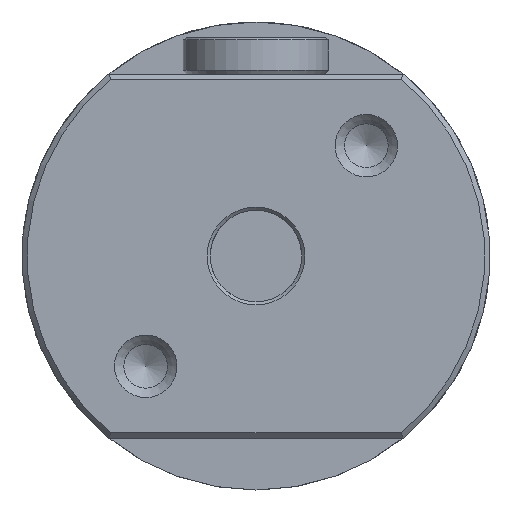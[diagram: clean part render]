
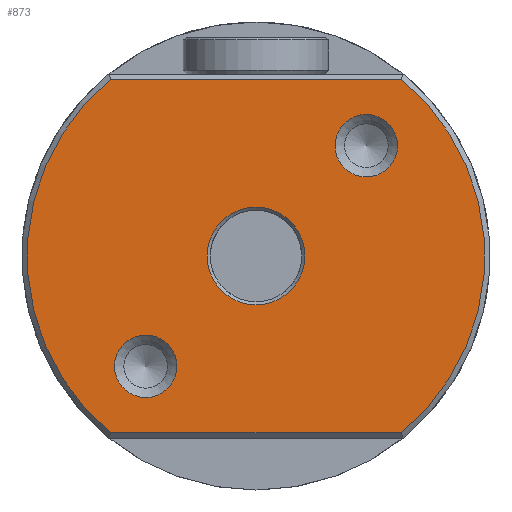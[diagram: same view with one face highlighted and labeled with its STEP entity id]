
A CAD part, front view. The second image highlights one B-rep face of the part: STEP entity #873.
In plain terms, the highlighted planar face has unit normal (0, -1, 0).
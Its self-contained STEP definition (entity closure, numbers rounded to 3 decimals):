
#873=ADVANCED_FACE('',(#1487,#1488,#1489,#1490),#1491,.F.);
#1487=FACE_OUTER_BOUND('',#2676,.T.);
#1488=FACE_BOUND('',#2677,.T.);
#1489=FACE_BOUND('',#2678,.T.);
#1490=FACE_BOUND('',#2679,.T.);
#1491=PLANE('',#2680);
#2676=EDGE_LOOP('',(#3752,#3753,#3754,#3755));
#2677=EDGE_LOOP('',(#3756));
#2678=EDGE_LOOP('',(#3757));
#2679=EDGE_LOOP('',(#3758));
#2680=AXIS2_PLACEMENT_3D('',#3759,#3760,#3761);
#3752=ORIENTED_EDGE('',*,*,#4386,.T.);
#3753=ORIENTED_EDGE('',*,*,#4387,.T.);
#3754=ORIENTED_EDGE('',*,*,#4388,.T.);
#3755=ORIENTED_EDGE('',*,*,#4389,.T.);
#3756=ORIENTED_EDGE('',*,*,#4380,.T.);
#3757=ORIENTED_EDGE('',*,*,#4390,.T.);
#3758=ORIENTED_EDGE('',*,*,#4391,.T.);
#3759=CARTESIAN_POINT('',(0.,-119.8,0.0));
#3760=DIRECTION('',(-0.0,1.0,0.0));
#3761=DIRECTION('',(1.0,0.0,0.0));
#4380=EDGE_CURVE('',#4979,#4979,#4980,.T.);
#4386=EDGE_CURVE('',#4987,#4988,#4989,.F.);
#4387=EDGE_CURVE('',#4988,#4990,#4991,.T.);
#4388=EDGE_CURVE('',#4990,#4992,#4993,.F.);
#4389=EDGE_CURVE('',#4992,#4987,#4994,.T.);
#4390=EDGE_CURVE('',#4995,#4995,#4996,.T.);
#4391=EDGE_CURVE('',#4997,#4997,#4998,.T.);
#4979=VERTEX_POINT('',#6319);
#4980=CIRCLE('',#6320,3.0);
#4987=VERTEX_POINT('',#6327);
#4988=VERTEX_POINT('',#6328);
#4989=CIRCLE('',#6329,22.0);
#4990=VERTEX_POINT('',#6330);
#4991=LINE('',#6331,#6332);
#4992=VERTEX_POINT('',#6333);
#4993=CIRCLE('',#6334,22.0);
#4994=LINE('',#6335,#6336);
#4995=VERTEX_POINT('',#6337);
#4996=CIRCLE('',#6338,3.0);
#4997=VERTEX_POINT('',#6339);
#4998=CIRCLE('',#6340,4.7);
#6319=CARTESIAN_POINT('',(-10.607,-119.8,13.607));
#6320=AXIS2_PLACEMENT_3D('',#6852,#6853,#6854);
#6327=CARTESIAN_POINT('',(17.0,-119.8,13.964));
#6328=CARTESIAN_POINT('',(-17.0,-119.8,13.964));
#6329=AXIS2_PLACEMENT_3D('',#6861,#6862,#6863);
#6330=CARTESIAN_POINT('',(-17.0,-119.8,-13.964));
#6331=CARTESIAN_POINT('',(-17.0,-119.8,-14.142));
#6332=VECTOR('',#6864,1.0);
#6333=CARTESIAN_POINT('',(17.0,-119.8,-13.964));
#6334=AXIS2_PLACEMENT_3D('',#6865,#6866,#6867);
#6335=CARTESIAN_POINT('',(17.0,-119.8,0.0));
#6336=VECTOR('',#6868,1.0);
#6337=CARTESIAN_POINT('',(10.607,-119.8,-7.607));
#6338=AXIS2_PLACEMENT_3D('',#6869,#6870,#6871);
#6339=CARTESIAN_POINT('',(0.0,-119.8,4.7));
#6340=AXIS2_PLACEMENT_3D('',#6872,#6873,#6874);
#6852=CARTESIAN_POINT('',(-10.607,-119.8,10.607));
#6853=DIRECTION('',(0.0,1.0,0.0));
#6854=DIRECTION('',(0.0,0.0,1.0));
#6861=CARTESIAN_POINT('',(0.0,-119.8,0.0));
#6862=DIRECTION('',(0.0,1.0,0.0));
#6863=DIRECTION('',(0.0,0.0,1.0));
#6864=DIRECTION('',(0.,0.0,-1.0));
#6865=CARTESIAN_POINT('',(0.0,-119.8,0.0));
#6866=DIRECTION('',(0.0,1.0,0.0));
#6867=DIRECTION('',(0.0,0.0,1.0));
#6868=DIRECTION('',(0.0,0.0,1.0));
#6869=CARTESIAN_POINT('',(10.607,-119.8,-10.607));
#6870=DIRECTION('',(0.0,1.0,0.0));
#6871=DIRECTION('',(0.0,0.0,1.0));
#6872=CARTESIAN_POINT('',(0.0,-119.8,0.0));
#6873=DIRECTION('',(0.0,1.0,0.0));
#6874=DIRECTION('',(0.0,0.0,1.0));
